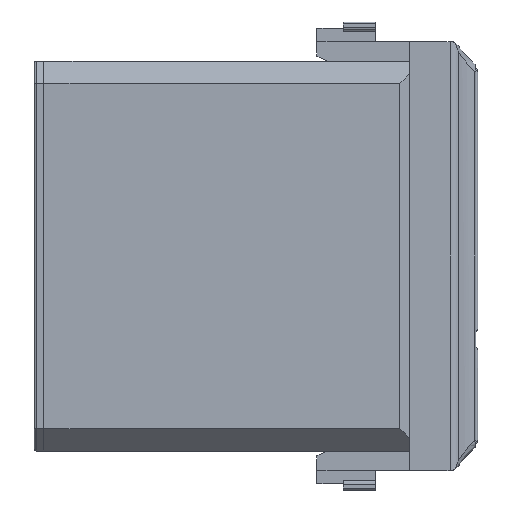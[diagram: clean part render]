
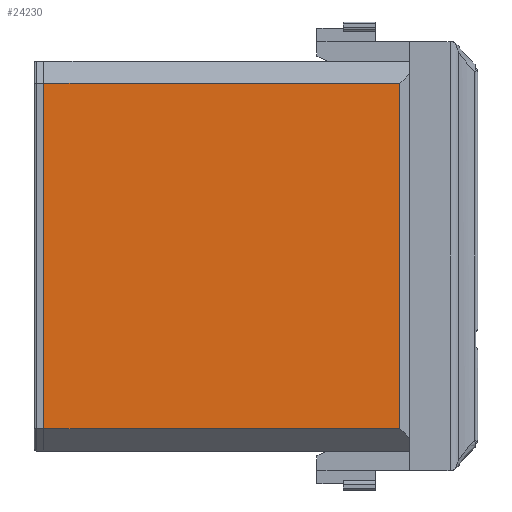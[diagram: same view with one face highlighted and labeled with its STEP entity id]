
A CAD part, front view. The second image highlights one B-rep face of the part: STEP entity #24230.
In plain terms, the highlighted planar face has unit normal (0, -1, 0).
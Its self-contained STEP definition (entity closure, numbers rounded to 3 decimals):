
#610=LINE('',#34389,#4000);
#615=LINE('',#34399,#4005);
#616=LINE('',#34401,#4006);
#617=LINE('',#34403,#4007);
#4000=VECTOR('',#27770,1000.);
#4005=VECTOR('',#27777,1000.);
#4006=VECTOR('',#27778,1000.);
#4007=VECTOR('',#27779,1000.);
#7347=PLANE('',#26088);
#8211=ORIENTED_EDGE('',*,*,#14446,.T.);
#8212=ORIENTED_EDGE('',*,*,#14447,.T.);
#8213=ORIENTED_EDGE('',*,*,#14448,.F.);
#8214=ORIENTED_EDGE('',*,*,#14441,.F.);
#14441=EDGE_CURVE('',#18527,#18528,#610,.T.);
#14446=EDGE_CURVE('',#18527,#18531,#615,.T.);
#14447=EDGE_CURVE('',#18531,#18532,#616,.T.);
#14448=EDGE_CURVE('',#18528,#18532,#617,.T.);
#18527=VERTEX_POINT('',#34390);
#18528=VERTEX_POINT('',#34391);
#18531=VERTEX_POINT('',#34400);
#18532=VERTEX_POINT('',#34402);
#22004=EDGE_LOOP('',(#8211,#8212,#8213,#8214));
#23116=FACE_BOUND('',#22004,.T.);
#24230=ADVANCED_FACE('',(#23116),#7347,.F.);
#26088=AXIS2_PLACEMENT_3D('',#34398,#27775,#27776);
#27770=DIRECTION('',(-1.,0.,0.));
#27775=DIRECTION('',(0.,1.,0.));
#27776=DIRECTION('',(1.,0.,0.));
#27777=DIRECTION('',(0.,0.,1.));
#27778=DIRECTION('',(-1.,0.,0.));
#27779=DIRECTION('',(0.,0.,1.));
#34389=CARTESIAN_POINT('',(18.37,-23.4,-32.7));
#34390=CARTESIAN_POINT('',(-4.,-23.4,-32.7));
#34391=CARTESIAN_POINT('',(-40.5,-23.4,-32.7));
#34398=CARTESIAN_POINT('',(-40.5,-23.4,-35.));
#34399=CARTESIAN_POINT('',(-4.,-23.4,2.702));
#34400=CARTESIAN_POINT('',(-4.,-23.4,2.7));
#34401=CARTESIAN_POINT('',(-40.5,-23.4,2.7));
#34402=CARTESIAN_POINT('',(-40.5,-23.4,2.7));
#34403=CARTESIAN_POINT('',(-40.5,-23.4,-35.));
